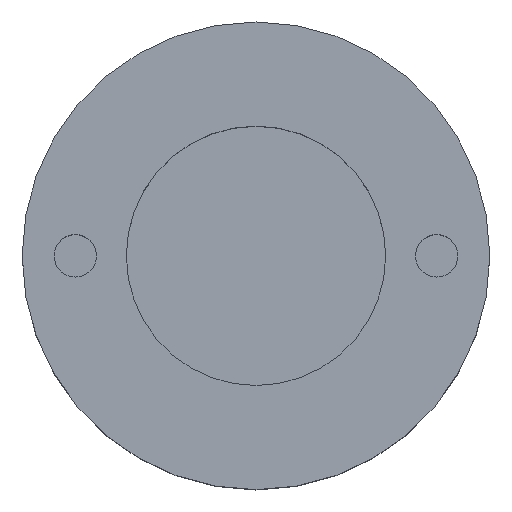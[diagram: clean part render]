
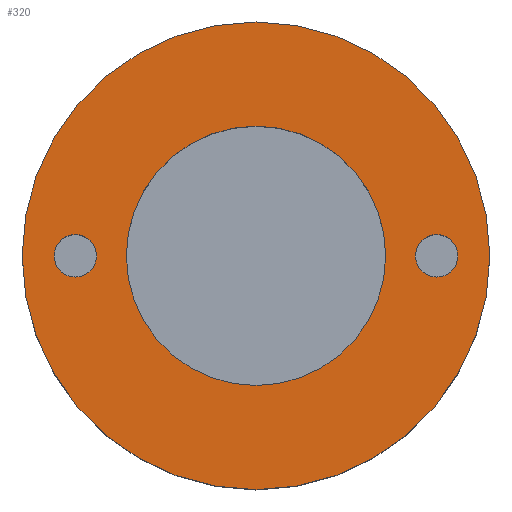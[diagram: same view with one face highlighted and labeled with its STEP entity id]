
A CAD part, top view. The second image highlights one B-rep face of the part: STEP entity #320.
In plain terms, the highlighted planar face has unit normal (0, 0, 1).
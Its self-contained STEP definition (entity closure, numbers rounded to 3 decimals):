
#161 = CYLINDRICAL_SURFACE('',#162,5.5);
#162 = AXIS2_PLACEMENT_3D('',#163,#164,#165);
#163 = CARTESIAN_POINT('',(0.,0.,20.6));
#164 = DIRECTION('',(0.,0.,1.));
#165 = DIRECTION('',(1.,0.,-0.));
#234 = EDGE_CURVE('',#235,#235,#237,.T.);
#235 = VERTEX_POINT('',#236);
#236 = CARTESIAN_POINT('',(5.5,0.,25.1));
#237 = SURFACE_CURVE('',#238,(#243,#250),.PCURVE_S1.);
#238 = CIRCLE('',#239,5.5);
#239 = AXIS2_PLACEMENT_3D('',#240,#241,#242);
#240 = CARTESIAN_POINT('',(0.,0.,25.1));
#241 = DIRECTION('',(0.,0.,1.));
#242 = DIRECTION('',(1.,0.,-0.));
#243 = PCURVE('',#161,#244);
#244 = DEFINITIONAL_REPRESENTATION('',(#245),#249);
#245 = LINE('',#246,#247);
#246 = CARTESIAN_POINT('',(0.,4.5));
#247 = VECTOR('',#248,1.);
#248 = DIRECTION('',(1.,0.));
#249 = ( GEOMETRIC_REPRESENTATION_CONTEXT(2) 
PARAMETRIC_REPRESENTATION_CONTEXT() REPRESENTATION_CONTEXT('2D SPACE',''
  ) );
#250 = PCURVE('',#251,#256);
#251 = PLANE('',#252);
#252 = AXIS2_PLACEMENT_3D('',#253,#254,#255);
#253 = CARTESIAN_POINT('',(0.,0.,25.1));
#254 = DIRECTION('',(0.,0.,1.));
#255 = DIRECTION('',(1.,0.,-0.));
#256 = DEFINITIONAL_REPRESENTATION('',(#257),#261);
#257 = CIRCLE('',#258,5.5);
#258 = AXIS2_PLACEMENT_2D('',#259,#260);
#259 = CARTESIAN_POINT('',(0.,0.));
#260 = DIRECTION('',(1.,0.));
#261 = ( GEOMETRIC_REPRESENTATION_CONTEXT(2) 
PARAMETRIC_REPRESENTATION_CONTEXT() REPRESENTATION_CONTEXT('2D SPACE',''
  ) );
#320 = ADVANCED_FACE('',(#321,#324,#355,#386),#251,.T.);
#321 = FACE_BOUND('',#322,.T.);
#322 = EDGE_LOOP('',(#323));
#323 = ORIENTED_EDGE('',*,*,#234,.T.);
#324 = FACE_BOUND('',#325,.T.);
#325 = EDGE_LOOP('',(#326));
#326 = ORIENTED_EDGE('',*,*,#327,.F.);
#327 = EDGE_CURVE('',#328,#328,#330,.T.);
#328 = VERTEX_POINT('',#329);
#329 = CARTESIAN_POINT('',(-3.75,0.,25.1));
#330 = SURFACE_CURVE('',#331,(#336,#343),.PCURVE_S1.);
#331 = CIRCLE('',#332,0.5);
#332 = AXIS2_PLACEMENT_3D('',#333,#334,#335);
#333 = CARTESIAN_POINT('',(-4.25,0.,25.1));
#334 = DIRECTION('',(0.,0.,1.));
#335 = DIRECTION('',(1.,0.,-0.));
#336 = PCURVE('',#251,#337);
#337 = DEFINITIONAL_REPRESENTATION('',(#338),#342);
#338 = CIRCLE('',#339,0.5);
#339 = AXIS2_PLACEMENT_2D('',#340,#341);
#340 = CARTESIAN_POINT('',(-4.25,0.));
#341 = DIRECTION('',(1.,0.));
#342 = ( GEOMETRIC_REPRESENTATION_CONTEXT(2) 
PARAMETRIC_REPRESENTATION_CONTEXT() REPRESENTATION_CONTEXT('2D SPACE',''
  ) );
#343 = PCURVE('',#344,#349);
#344 = CYLINDRICAL_SURFACE('',#345,0.5);
#345 = AXIS2_PLACEMENT_3D('',#346,#347,#348);
#346 = CARTESIAN_POINT('',(-4.25,0.,23.1));
#347 = DIRECTION('',(0.,0.,1.));
#348 = DIRECTION('',(1.,0.,-0.));
#349 = DEFINITIONAL_REPRESENTATION('',(#350),#354);
#350 = LINE('',#351,#352);
#351 = CARTESIAN_POINT('',(0.,2.));
#352 = VECTOR('',#353,1.);
#353 = DIRECTION('',(1.,0.));
#354 = ( GEOMETRIC_REPRESENTATION_CONTEXT(2) 
PARAMETRIC_REPRESENTATION_CONTEXT() REPRESENTATION_CONTEXT('2D SPACE',''
  ) );
#355 = FACE_BOUND('',#356,.T.);
#356 = EDGE_LOOP('',(#357));
#357 = ORIENTED_EDGE('',*,*,#358,.F.);
#358 = EDGE_CURVE('',#359,#359,#361,.T.);
#359 = VERTEX_POINT('',#360);
#360 = CARTESIAN_POINT('',(3.05,0.,25.1));
#361 = SURFACE_CURVE('',#362,(#367,#374),.PCURVE_S1.);
#362 = CIRCLE('',#363,3.05);
#363 = AXIS2_PLACEMENT_3D('',#364,#365,#366);
#364 = CARTESIAN_POINT('',(0.,0.,25.1));
#365 = DIRECTION('',(0.,0.,1.));
#366 = DIRECTION('',(1.,0.,-0.));
#367 = PCURVE('',#251,#368);
#368 = DEFINITIONAL_REPRESENTATION('',(#369),#373);
#369 = CIRCLE('',#370,3.05);
#370 = AXIS2_PLACEMENT_2D('',#371,#372);
#371 = CARTESIAN_POINT('',(0.,0.));
#372 = DIRECTION('',(1.,0.));
#373 = ( GEOMETRIC_REPRESENTATION_CONTEXT(2) 
PARAMETRIC_REPRESENTATION_CONTEXT() REPRESENTATION_CONTEXT('2D SPACE',''
  ) );
#374 = PCURVE('',#375,#380);
#375 = CYLINDRICAL_SURFACE('',#376,3.05);
#376 = AXIS2_PLACEMENT_3D('',#377,#378,#379);
#377 = CARTESIAN_POINT('',(0.,0.,22.6));
#378 = DIRECTION('',(0.,0.,1.));
#379 = DIRECTION('',(1.,0.,-0.));
#380 = DEFINITIONAL_REPRESENTATION('',(#381),#385);
#381 = LINE('',#382,#383);
#382 = CARTESIAN_POINT('',(0.,2.5));
#383 = VECTOR('',#384,1.);
#384 = DIRECTION('',(1.,0.));
#385 = ( GEOMETRIC_REPRESENTATION_CONTEXT(2) 
PARAMETRIC_REPRESENTATION_CONTEXT() REPRESENTATION_CONTEXT('2D SPACE',''
  ) );
#386 = FACE_BOUND('',#387,.T.);
#387 = EDGE_LOOP('',(#388));
#388 = ORIENTED_EDGE('',*,*,#389,.F.);
#389 = EDGE_CURVE('',#390,#390,#392,.T.);
#390 = VERTEX_POINT('',#391);
#391 = CARTESIAN_POINT('',(4.75,0.,25.1));
#392 = SURFACE_CURVE('',#393,(#398,#405),.PCURVE_S1.);
#393 = CIRCLE('',#394,0.5);
#394 = AXIS2_PLACEMENT_3D('',#395,#396,#397);
#395 = CARTESIAN_POINT('',(4.25,0.,25.1));
#396 = DIRECTION('',(0.,0.,1.));
#397 = DIRECTION('',(1.,0.,-0.));
#398 = PCURVE('',#251,#399);
#399 = DEFINITIONAL_REPRESENTATION('',(#400),#404);
#400 = CIRCLE('',#401,0.5);
#401 = AXIS2_PLACEMENT_2D('',#402,#403);
#402 = CARTESIAN_POINT('',(4.25,0.));
#403 = DIRECTION('',(1.,0.));
#404 = ( GEOMETRIC_REPRESENTATION_CONTEXT(2) 
PARAMETRIC_REPRESENTATION_CONTEXT() REPRESENTATION_CONTEXT('2D SPACE',''
  ) );
#405 = PCURVE('',#406,#411);
#406 = CYLINDRICAL_SURFACE('',#407,0.5);
#407 = AXIS2_PLACEMENT_3D('',#408,#409,#410);
#408 = CARTESIAN_POINT('',(4.25,0.,23.1));
#409 = DIRECTION('',(0.,0.,1.));
#410 = DIRECTION('',(1.,0.,-0.));
#411 = DEFINITIONAL_REPRESENTATION('',(#412),#416);
#412 = LINE('',#413,#414);
#413 = CARTESIAN_POINT('',(0.,2.));
#414 = VECTOR('',#415,1.);
#415 = DIRECTION('',(1.,0.));
#416 = ( GEOMETRIC_REPRESENTATION_CONTEXT(2) 
PARAMETRIC_REPRESENTATION_CONTEXT() REPRESENTATION_CONTEXT('2D SPACE',''
  ) );
